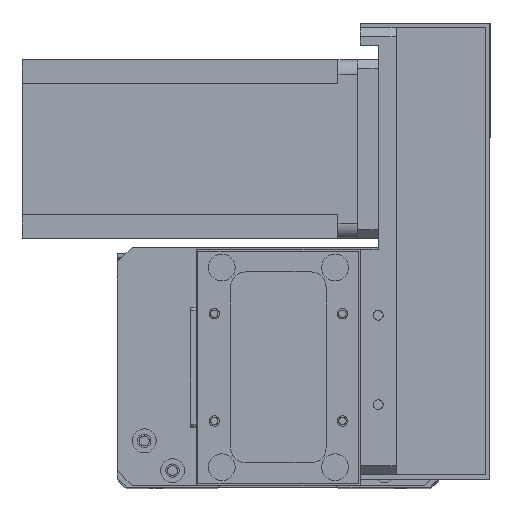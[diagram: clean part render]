
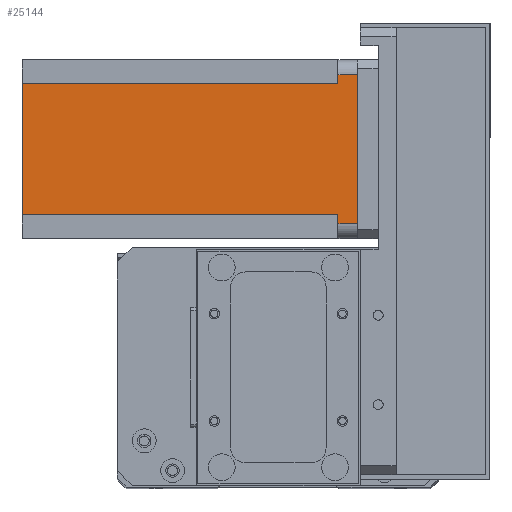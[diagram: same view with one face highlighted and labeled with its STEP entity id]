
A CAD part, top view. The second image highlights one B-rep face of the part: STEP entity #25144.
In plain terms, the highlighted planar face has unit normal (0, 0, 1) as drawn and (0, 1, 0) by its records, which use the part's own axes.
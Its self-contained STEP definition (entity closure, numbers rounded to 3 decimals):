
#472 = CARTESIAN_POINT ( 'NONE',  ( 8., 60., -112.5 ) ) ;
#795 = VECTOR ( 'NONE', #20337, 1000. ) ;
#1364 = CARTESIAN_POINT ( 'NONE',  ( 52., 60., -6.5 ) ) ;
#1587 = CARTESIAN_POINT ( 'NONE',  ( 52., 60., -112.5 ) ) ;
#1704 = DIRECTION ( 'NONE',  ( -1., 0., 0. ) ) ;
#2704 = AXIS2_PLACEMENT_3D ( 'NONE', #19119, #23505, #10391 ) ;
#3239 = EDGE_CURVE ( 'NONE', #15402, #7290, #18562, .T. ) ;
#4004 = ORIENTED_EDGE ( 'NONE', *, *, #9519, .T. ) ;
#4657 = VERTEX_POINT ( 'NONE', #18941 ) ;
#4980 = ORIENTED_EDGE ( 'NONE', *, *, #26214, .F. ) ;
#5084 = LINE ( 'NONE', #13377, #10270 ) ;
#6698 = VECTOR ( 'NONE', #15633, 1000. ) ;
#6807 = DIRECTION ( 'NONE',  ( -1., 0., 0. ) ) ;
#7290 = VERTEX_POINT ( 'NONE', #12008 ) ;
#7333 = DIRECTION ( 'NONE',  ( -1., 0., 0. ) ) ;
#8169 = PLANE ( 'NONE',  #2704 ) ;
#8364 = FACE_OUTER_BOUND ( 'NONE', #27544, .T. ) ;
#9519 = EDGE_CURVE ( 'NONE', #4657, #7290, #17509, .T. ) ;
#9733 = VERTEX_POINT ( 'NONE', #20789 ) ;
#10270 = VECTOR ( 'NONE', #6807, 1000. ) ;
#10391 = DIRECTION ( 'NONE',  ( 0., 0., 1. ) ) ;
#10621 = VECTOR ( 'NONE', #7333, 1000. ) ;
#11825 = VERTEX_POINT ( 'NONE', #25108 ) ;
#12008 = CARTESIAN_POINT ( 'NONE',  ( 55., 60., -6.5 ) ) ;
#12170 = VECTOR ( 'NONE', #13727, 1000. ) ;
#12307 = EDGE_CURVE ( 'NONE', #11825, #18792, #12574, .T. ) ;
#12574 = LINE ( 'NONE', #17735, #6698 ) ;
#13377 = CARTESIAN_POINT ( 'NONE',  ( 0., 60., -112.5 ) ) ;
#13727 = DIRECTION ( 'NONE',  ( 0., 0., -1. ) ) ;
#14340 = VERTEX_POINT ( 'NONE', #1587 ) ;
#14595 = DIRECTION ( 'NONE',  ( 1., 0., 0. ) ) ;
#14622 = CARTESIAN_POINT ( 'NONE',  ( 8., 60., -6.5 ) ) ;
#15402 = VERTEX_POINT ( 'NONE', #25177 ) ;
#15596 = EDGE_CURVE ( 'NONE', #17925, #11825, #21247, .T. ) ;
#15633 = DIRECTION ( 'NONE',  ( 0., 0., 1. ) ) ;
#15713 = ORIENTED_EDGE ( 'NONE', *, *, #18845, .F. ) ;
#15946 = LINE ( 'NONE', #472, #12170 ) ;
#17509 = LINE ( 'NONE', #22330, #27736 ) ;
#17721 = LINE ( 'NONE', #18143, #795 ) ;
#17735 = CARTESIAN_POINT ( 'NONE',  ( 5., 60., -112.5 ) ) ;
#17925 = VERTEX_POINT ( 'NONE', #14622 ) ;
#18143 = CARTESIAN_POINT ( 'NONE',  ( 52., 60., -112.5 ) ) ;
#18562 = LINE ( 'NONE', #1364, #24388 ) ;
#18792 = VERTEX_POINT ( 'NONE', #24441 ) ;
#18845 = EDGE_CURVE ( 'NONE', #17925, #9733, #15946, .T. ) ;
#18941 = CARTESIAN_POINT ( 'NONE',  ( 55., 60., 0. ) ) ;
#19119 = CARTESIAN_POINT ( 'NONE',  ( 0., 60., -112.5 ) ) ;
#19322 = ORIENTED_EDGE ( 'NONE', *, *, #24098, .F. ) ;
#19830 = ORIENTED_EDGE ( 'NONE', *, *, #15596, .T. ) ;
#20137 = DIRECTION ( 'NONE',  ( 0., 0., -1. ) ) ;
#20337 = DIRECTION ( 'NONE',  ( 0., 0., 1. ) ) ;
#20789 = CARTESIAN_POINT ( 'NONE',  ( 8., 60., -112.5 ) ) ;
#21247 = LINE ( 'NONE', #25838, #26384 ) ;
#22105 = EDGE_CURVE ( 'NONE', #14340, #9733, #5084, .T. ) ;
#22330 = CARTESIAN_POINT ( 'NONE',  ( 55., 60., -112.5 ) ) ;
#22658 = ORIENTED_EDGE ( 'NONE', *, *, #12307, .T. ) ;
#22953 = LINE ( 'NONE', #26973, #10621 ) ;
#23505 = DIRECTION ( 'NONE',  ( 0., 1., 0. ) ) ;
#24098 = EDGE_CURVE ( 'NONE', #14340, #15402, #17721, .T. ) ;
#24225 = ORIENTED_EDGE ( 'NONE', *, *, #22105, .T. ) ;
#24388 = VECTOR ( 'NONE', #14595, 1000. ) ;
#24441 = CARTESIAN_POINT ( 'NONE',  ( 5., 60., 0. ) ) ;
#25108 = CARTESIAN_POINT ( 'NONE',  ( 5., 60., -6.5 ) ) ;
#25144 = ADVANCED_FACE ( 'NONE', ( #8364 ), #8169, .T. ) ;
#25177 = CARTESIAN_POINT ( 'NONE',  ( 52., 60., -6.5 ) ) ;
#25838 = CARTESIAN_POINT ( 'NONE',  ( 8., 60., -6.5 ) ) ;
#26214 = EDGE_CURVE ( 'NONE', #4657, #18792, #22953, .T. ) ;
#26384 = VECTOR ( 'NONE', #1704, 1000. ) ;
#26973 = CARTESIAN_POINT ( 'NONE',  ( 0., 60., 0. ) ) ;
#27544 = EDGE_LOOP ( 'NONE', ( #4980, #4004, #27827, #19322, #24225, #15713, #19830, #22658 ) ) ;
#27736 = VECTOR ( 'NONE', #20137, 1000. ) ;
#27827 = ORIENTED_EDGE ( 'NONE', *, *, #3239, .F. ) ;
